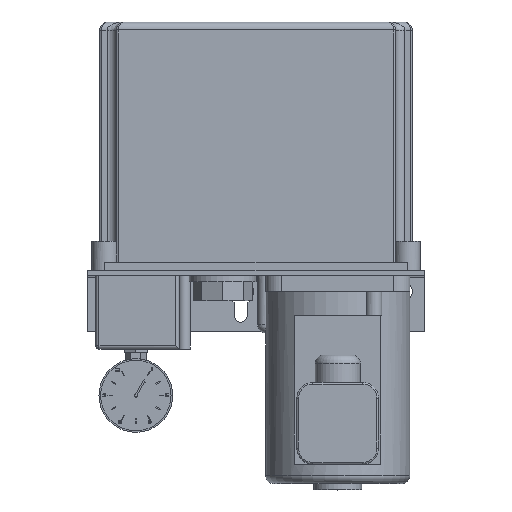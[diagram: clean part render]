
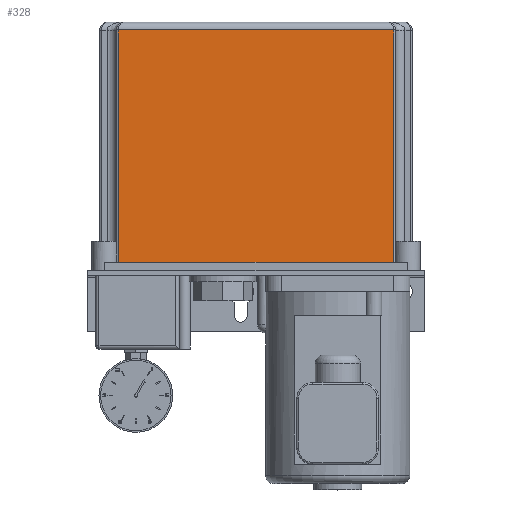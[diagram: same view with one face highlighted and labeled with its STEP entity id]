
A CAD part, top view. The second image highlights one B-rep face of the part: STEP entity #328.
In plain terms, the highlighted planar face has unit normal (0, 0, 1).
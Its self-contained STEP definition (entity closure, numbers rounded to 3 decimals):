
#328=ADVANCED_FACE('',(#9688),#9690,.T.);
#9688=FACE_BOUND('',#9689,.T.);
#9689=EDGE_LOOP('',(#17831,#17832,#17833,#17834));
#9690=PLANE('',#9691);
#9691=AXIS2_PLACEMENT_3D('',#9692,#9693,#9694);
#9692=CARTESIAN_POINT('',(-97.5,-72.5,120.));
#9693=DIRECTION('',(0.,0.,1.));
#9694=DIRECTION('',(1.,0.,0.));
#17831=ORIENTED_EDGE('',*,*,#23684,.T.);
#17832=ORIENTED_EDGE('',*,*,#23621,.T.);
#17833=ORIENTED_EDGE('',*,*,#23685,.T.);
#17834=ORIENTED_EDGE('',*,*,#23686,.F.);
#23621=EDGE_CURVE('',#26608,#26616,#26618,.T.);
#23684=EDGE_CURVE('',#26712,#26608,#26713,.F.);
#23685=EDGE_CURVE('',#26616,#26714,#26715,.F.);
#23686=EDGE_CURVE('',#26712,#26714,#26716,.T.);
#26608=VERTEX_POINT('',#31580);
#26616=VERTEX_POINT('',#31599);
#26618=LINE('',#31604,#31605);
#26712=VERTEX_POINT('',#32076);
#26713=LINE('',#32077,#32078);
#26714=VERTEX_POINT('',#32080);
#26715=LINE('',#32081,#32082);
#26716=LINE('',#32084,#32085);
#31580=CARTESIAN_POINT('',(-86.,-72.5,120.));
#31599=CARTESIAN_POINT('',(86.,-72.5,120.));
#31604=CARTESIAN_POINT('',(-86.,-72.5,120.));
#31605=VECTOR('',#31606,1.);
#31606=DIRECTION('',(1.,0.,0.));
#32076=CARTESIAN_POINT('',(-86.,72.5,120.));
#32077=CARTESIAN_POINT('',(-86.,-72.5,120.));
#32078=VECTOR('',#32079,1.);
#32079=DIRECTION('',(0.,1.,0.));
#32080=CARTESIAN_POINT('',(86.,72.5,120.));
#32081=CARTESIAN_POINT('',(86.,72.5,120.));
#32082=VECTOR('',#32083,1.);
#32083=DIRECTION('',(0.,-1.,0.));
#32084=CARTESIAN_POINT('',(-86.,72.5,120.));
#32085=VECTOR('',#32086,1.);
#32086=DIRECTION('',(1.,0.,0.));
